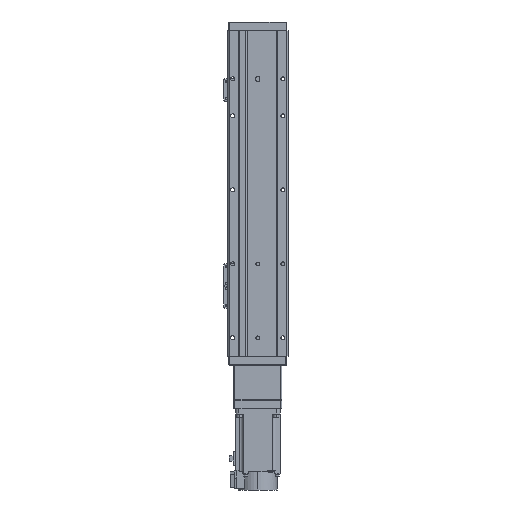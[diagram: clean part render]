
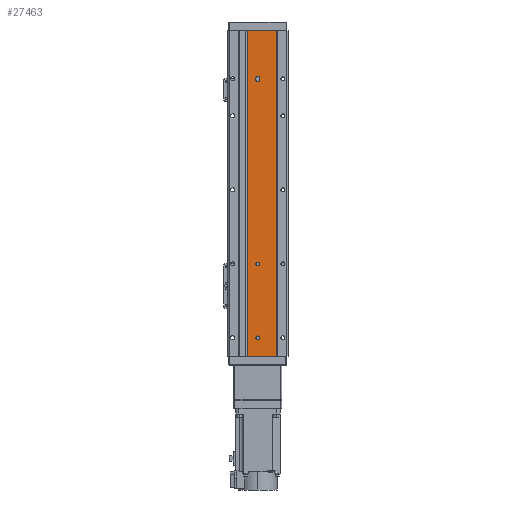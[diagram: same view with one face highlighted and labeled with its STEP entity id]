
A CAD part, front view. The second image highlights one B-rep face of the part: STEP entity #27463.
In plain terms, the highlighted planar face has unit normal (0, -1, 0).
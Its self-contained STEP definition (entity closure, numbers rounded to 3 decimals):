
#479 = DIRECTION ( 'NONE',  ( 0., 0., -1. ) ) ;
#672 = CARTESIAN_POINT ( 'NONE',  ( -2.5, 1., -154. ) ) ;
#871 = CIRCLE ( 'NONE', #22567, 2.5 ) ;
#975 = FACE_BOUND ( 'NONE', #29399, .T. ) ;
#2176 = VERTEX_POINT ( 'NONE', #30039 ) ;
#2630 = CARTESIAN_POINT ( 'NONE',  ( 14., 1., 220. ) ) ;
#2652 = ORIENTED_EDGE ( 'NONE', *, *, #22664, .T. ) ;
#2694 = LINE ( 'NONE', #14507, #7376 ) ;
#2891 = CIRCLE ( 'NONE', #24567, 2.5 ) ;
#3455 = ORIENTED_EDGE ( 'NONE', *, *, #25862, .F. ) ;
#4723 = DIRECTION ( 'NONE',  ( 0., -1., 0. ) ) ;
#4961 = VERTEX_POINT ( 'NONE', #34182 ) ;
#4994 = LINE ( 'NONE', #16828, #21016 ) ;
#5099 = CARTESIAN_POINT ( 'NONE',  ( -2.5, 1., -154. ) ) ;
#5329 = DIRECTION ( 'NONE',  ( 0., 0., -1. ) ) ;
#5774 = CARTESIAN_POINT ( 'NONE',  ( -25., 1., 220. ) ) ;
#6364 = CARTESIAN_POINT ( 'NONE',  ( 0., 1., 92.5 ) ) ;
#6733 = CARTESIAN_POINT ( 'NONE',  ( 2.5, 1., -154. ) ) ;
#7376 = VECTOR ( 'NONE', #26365, 1000. ) ;
#7581 = CARTESIAN_POINT ( 'NONE',  ( 0., 1., 95. ) ) ;
#8401 = DIRECTION ( 'NONE',  ( 0., -1., 0. ) ) ;
#8661 = CARTESIAN_POINT ( 'NONE',  ( 2.5, 1., -156. ) ) ;
#8866 = CARTESIAN_POINT ( 'NONE',  ( -25., 1., -220. ) ) ;
#9066 = CARTESIAN_POINT ( 'NONE',  ( 14., 1., 220. ) ) ;
#9842 = ORIENTED_EDGE ( 'NONE', *, *, #37004, .F. ) ;
#9881 = CARTESIAN_POINT ( 'NONE',  ( -25., 1., 220. ) ) ;
#10110 = AXIS2_PLACEMENT_3D ( 'NONE', #15211, #27058, #479 ) ;
#10522 = DIRECTION ( 'NONE',  ( 0., -1., 0. ) ) ;
#11065 = CIRCLE ( 'NONE', #32795, 2.5 ) ;
#11144 = EDGE_CURVE ( 'NONE', #34376, #37997, #2891, .T. ) ;
#11307 = DIRECTION ( 'NONE',  ( 0., -1., 0. ) ) ;
#11969 = ORIENTED_EDGE ( 'NONE', *, *, #25782, .T. ) ;
#12367 = VERTEX_POINT ( 'NONE', #21855 ) ;
#12370 = ORIENTED_EDGE ( 'NONE', *, *, #23252, .F. ) ;
#12789 = VERTEX_POINT ( 'NONE', #672 ) ;
#12790 = FACE_BOUND ( 'NONE', #16605, .T. ) ;
#13737 = CIRCLE ( 'NONE', #35510, 2.5 ) ;
#13768 = LINE ( 'NONE', #25631, #14150 ) ;
#14150 = VECTOR ( 'NONE', #37559, 1000. ) ;
#14450 = DIRECTION ( 'NONE',  ( 0., 0., -1. ) ) ;
#14507 = CARTESIAN_POINT ( 'NONE',  ( 2.5, 1., -154. ) ) ;
#14982 = EDGE_LOOP ( 'NONE', ( #11969, #9842, #18744, #2652 ) ) ;
#15086 = VERTEX_POINT ( 'NONE', #8866 ) ;
#15211 = CARTESIAN_POINT ( 'NONE',  ( 0., 1., 195. ) ) ;
#16135 = AXIS2_PLACEMENT_3D ( 'NONE', #9881, #21701, #33606 ) ;
#16551 = DIRECTION ( 'NONE',  ( 0., 0., -1. ) ) ;
#16605 = EDGE_LOOP ( 'NONE', ( #34100, #31626 ) ) ;
#16828 = CARTESIAN_POINT ( 'NONE',  ( -25., 1., -220. ) ) ;
#16934 = DIRECTION ( 'NONE',  ( 0., 0., -1. ) ) ;
#17361 = EDGE_CURVE ( 'NONE', #37997, #21448, #13737, .T. ) ;
#17602 = DIRECTION ( 'NONE',  ( 0., 0., -1. ) ) ;
#18333 = ORIENTED_EDGE ( 'NONE', *, *, #17361, .F. ) ;
#18695 = AXIS2_PLACEMENT_3D ( 'NONE', #20071, #31953, #5329 ) ;
#18744 = ORIENTED_EDGE ( 'NONE', *, *, #35963, .F. ) ;
#19113 = VECTOR ( 'NONE', #16934, 1000. ) ;
#19423 = DIRECTION ( 'NONE',  ( 0., -1., 0. ) ) ;
#19960 = CARTESIAN_POINT ( 'NONE',  ( -2.5, 1., -156. ) ) ;
#20071 = CARTESIAN_POINT ( 'NONE',  ( 0., 1., 95. ) ) ;
#20226 = DIRECTION ( 'NONE',  ( 0., 0., -1. ) ) ;
#20279 = LINE ( 'NONE', #2630, #29033 ) ;
#20594 = AXIS2_PLACEMENT_3D ( 'NONE', #37194, #10522, #22353 ) ;
#21016 = VECTOR ( 'NONE', #28707, 1000. ) ;
#21080 = CARTESIAN_POINT ( 'NONE',  ( 0., 1., -158.5 ) ) ;
#21448 = VERTEX_POINT ( 'NONE', #8661 ) ;
#21701 = DIRECTION ( 'NONE',  ( 0., 1., 0. ) ) ;
#21855 = CARTESIAN_POINT ( 'NONE',  ( 0., 1., 97.5 ) ) ;
#22353 = DIRECTION ( 'NONE',  ( 0., 0., -1. ) ) ;
#22567 = AXIS2_PLACEMENT_3D ( 'NONE', #7581, #19423, #31294 ) ;
#22664 = EDGE_CURVE ( 'NONE', #25255, #15086, #32388, .T. ) ;
#22748 = VERTEX_POINT ( 'NONE', #9066 ) ;
#23160 = DIRECTION ( 'NONE',  ( 0., 0., -1. ) ) ;
#23252 = EDGE_CURVE ( 'NONE', #23613, #4961, #26852, .T. ) ;
#23613 = VERTEX_POINT ( 'NONE', #35416 ) ;
#23909 = EDGE_CURVE ( 'NONE', #29176, #12367, #871, .T. ) ;
#24567 = AXIS2_PLACEMENT_3D ( 'NONE', #37984, #11307, #23160 ) ;
#24636 = FACE_OUTER_BOUND ( 'NONE', #14982, .T. ) ;
#25255 = VERTEX_POINT ( 'NONE', #25438 ) ;
#25438 = CARTESIAN_POINT ( 'NONE',  ( -25., 1., 220. ) ) ;
#25526 = ORIENTED_EDGE ( 'NONE', *, *, #30209, .F. ) ;
#25631 = CARTESIAN_POINT ( 'NONE',  ( -25., 1., 220. ) ) ;
#25782 = EDGE_CURVE ( 'NONE', #15086, #2176, #4994, .T. ) ;
#25862 = EDGE_CURVE ( 'NONE', #21448, #33289, #2694, .T. ) ;
#26365 = DIRECTION ( 'NONE',  ( 0., 0., 1. ) ) ;
#26852 = CIRCLE ( 'NONE', #10110, 2.5 ) ;
#27058 = DIRECTION ( 'NONE',  ( 0., -1., 0. ) ) ;
#27463 = ADVANCED_FACE ( 'NONE', ( #27556, #975, #12790, #24636 ), #36544, .F. ) ;
#27556 = FACE_BOUND ( 'NONE', #29884, .T. ) ;
#28330 = ORIENTED_EDGE ( 'NONE', *, *, #37418, .F. ) ;
#28707 = DIRECTION ( 'NONE',  ( 1., 0., 0. ) ) ;
#29033 = VECTOR ( 'NONE', #14450, 1000. ) ;
#29176 = VERTEX_POINT ( 'NONE', #6364 ) ;
#29382 = ORIENTED_EDGE ( 'NONE', *, *, #37340, .F. ) ;
#29399 = EDGE_LOOP ( 'NONE', ( #12370, #25526 ) ) ;
#29868 = EDGE_CURVE ( 'NONE', #12367, #29176, #35509, .T. ) ;
#29884 = EDGE_LOOP ( 'NONE', ( #28330, #29382, #3455, #18333, #32706 ) ) ;
#30039 = CARTESIAN_POINT ( 'NONE',  ( 14., 1., -220. ) ) ;
#30209 = EDGE_CURVE ( 'NONE', #4961, #23613, #37427, .T. ) ;
#31294 = DIRECTION ( 'NONE',  ( 0., 0., -1. ) ) ;
#31340 = CARTESIAN_POINT ( 'NONE',  ( 0., 1., -154. ) ) ;
#31626 = ORIENTED_EDGE ( 'NONE', *, *, #29868, .F. ) ;
#31715 = LINE ( 'NONE', #5099, #19113 ) ;
#31953 = DIRECTION ( 'NONE',  ( 0., -1., 0. ) ) ;
#32388 = LINE ( 'NONE', #5774, #37440 ) ;
#32706 = ORIENTED_EDGE ( 'NONE', *, *, #11144, .F. ) ;
#32795 = AXIS2_PLACEMENT_3D ( 'NONE', #31340, #4723, #16551 ) ;
#33289 = VERTEX_POINT ( 'NONE', #6733 ) ;
#33606 = DIRECTION ( 'NONE',  ( 0., 0., 1. ) ) ;
#34100 = ORIENTED_EDGE ( 'NONE', *, *, #23909, .F. ) ;
#34182 = CARTESIAN_POINT ( 'NONE',  ( 0., 1., 197.5 ) ) ;
#34376 = VERTEX_POINT ( 'NONE', #19960 ) ;
#35052 = CARTESIAN_POINT ( 'NONE',  ( 0., 1., -156. ) ) ;
#35416 = CARTESIAN_POINT ( 'NONE',  ( 0., 1., 192.5 ) ) ;
#35510 = AXIS2_PLACEMENT_3D ( 'NONE', #35052, #8401, #20226 ) ;
#35509 = CIRCLE ( 'NONE', #18695, 2.5 ) ;
#35963 = EDGE_CURVE ( 'NONE', #25255, #22748, #13768, .T. ) ;
#36544 = PLANE ( 'NONE',  #16135 ) ;
#37004 = EDGE_CURVE ( 'NONE', #22748, #2176, #20279, .T. ) ;
#37194 = CARTESIAN_POINT ( 'NONE',  ( 0., 1., 195. ) ) ;
#37340 = EDGE_CURVE ( 'NONE', #33289, #12789, #11065, .T. ) ;
#37418 = EDGE_CURVE ( 'NONE', #12789, #34376, #31715, .T. ) ;
#37427 = CIRCLE ( 'NONE', #20594, 2.5 ) ;
#37440 = VECTOR ( 'NONE', #17602, 1000. ) ;
#37559 = DIRECTION ( 'NONE',  ( 1., 0., 0. ) ) ;
#37984 = CARTESIAN_POINT ( 'NONE',  ( 0., 1., -156. ) ) ;
#37997 = VERTEX_POINT ( 'NONE', #21080 ) ;
